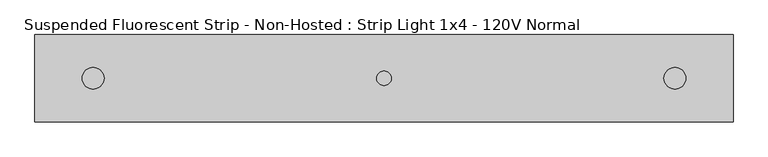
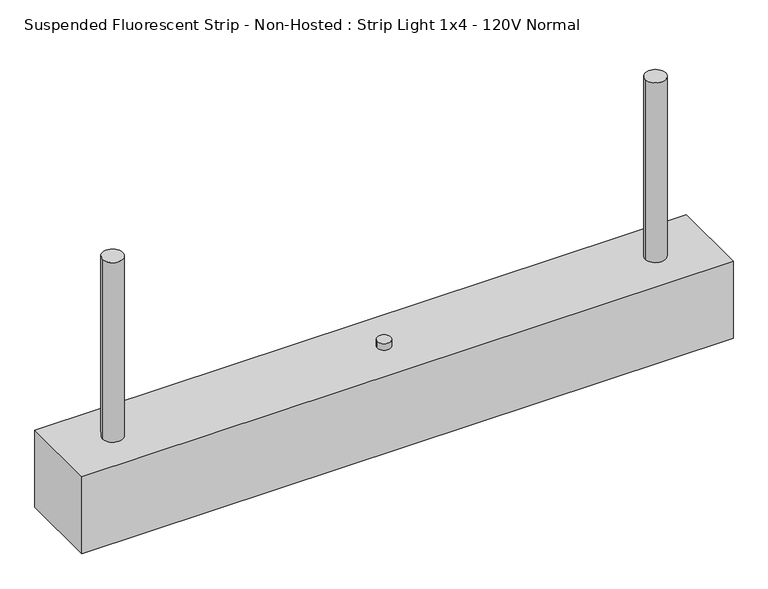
"""IFC4 building model written with IfcOpenShell, lengths in millimetres: light fixture geometry, Suspended Fluorescent Strip - Non-Hosted : Strip Light 1x4 - 120V Normal."""

import ifcopenshell
import ifcopenshell.guid

model = None  # the IFC model being written
_history = None  # IfcOwnerHistory: only IFC2X3 demands one
_inside = {}  # id of a spatial element -> (the spatial element, [elements in it])
_under = {}  # id of a project, library or spatial element -> (it, [spatial elements below it])
_declared = {}  # id of a project -> (the project, [libraries it declares])
_typed = {}  # id of a type object -> (the type object, [elements of that type])
_made_of = {}  # id of a material, layer set ... -> (it, [elements and type objects made of it])


def new_model(schema):
    """Start an empty IFC model of exactly this schema.

    Asked for "IFC4X3", IfcOpenShell would pick the latest addendum, in which some entities
    have other attributes; the version numbers below select the first issue.
    IFC2X3 requires an IfcOwnerHistory on every rooted entity: one is made here for all.
    """
    global model, _history
    if schema == "IFC4X3":
        model = ifcopenshell.file(schema_version=(4, 3, 0, 0))
    else:
        model = ifcopenshell.file(schema=schema)
    _inside.clear()
    _under.clear()
    _declared.clear()
    _typed.clear()
    _made_of.clear()
    _history = None
    if model.schema == "IFC2X3":
        org = make("IfcOrganization", Name="unknown")
        user = make(
            "IfcPersonAndOrganization",
            ThePerson=make("IfcPerson", FamilyName="unknown"),
            TheOrganization=org,
        )
        app = make(
            "IfcApplication",
            ApplicationDeveloper=org,
            Version="unknown",
            ApplicationFullName="unknown",
            ApplicationIdentifier="unknown",
        )
        _history = make(
            "IfcOwnerHistory",
            OwningUser=user,
            OwningApplication=app,
            ChangeAction="ADDED",
            CreationDate=0,
        )
    return model


def make(cls, **values):
    """One entity of the class cls with the attributes given. An attribute that is None is left unset."""
    return model.create_entity(
        cls, **{name: value for name, value in values.items() if value is not None}
    )


def rooted(cls, **values):
    """An entity with a GlobalId (a new one), such as an element, a storey or a relation."""
    return make(cls, GlobalId=ifcopenshell.guid.new(), OwnerHistory=_history, **values)


def si_unit(unit_type, name, prefix=None):
    """IfcSIUnit, for example si_unit("LENGTHUNIT", "METRE", prefix="MILLI")."""
    return make("IfcSIUnit", UnitType=unit_type, Prefix=prefix, Name=name)


def assignment(units):
    """IfcUnitAssignment: the units of a project."""
    return None if units is None else make("IfcUnitAssignment", Units=units)


def point(xyz):
    """IfcCartesianPoint."""
    return None if xyz is None else make("IfcCartesianPoint", Coordinates=xyz)


def direction(xyz):
    """IfcDirection."""
    return None if xyz is None else make("IfcDirection", DirectionRatios=xyz)


def frame(location, z_axis=None, x_axis=None):
    """IfcAxis2Placement3D, a coordinate frame: its origin and axes. An axis left out is left unset."""
    return make(
        "IfcAxis2Placement3D",
        Location=point(location),
        Axis=direction(z_axis),
        RefDirection=direction(x_axis),
    )


def frame_2d(location, x_axis=None):
    """IfcAxis2Placement2D, a coordinate frame in the plane: its origin and x axis."""
    return make(
        "IfcAxis2Placement2D", Location=point(location), RefDirection=direction(x_axis)
    )


def origin():
    """The frame at (0, 0, 0) with its axes left unset."""
    return frame((0.0, 0.0, 0.0))


def origin_with_axes():
    """The frame at (0, 0, 0) with the z axis (0, 0, 1) and the x axis (1, 0, 0) written out."""
    return frame((0.0, 0.0, 0.0), z_axis=(0.0, 0.0, 1.0), x_axis=(1.0, 0.0, 0.0))


def origin_2d():
    """The frame at (0, 0) in the plane with its x axis left unset."""
    return frame_2d((0.0, 0.0))


def place(relative_to, where):
    """IfcLocalPlacement: puts the frame where relative to a parent placement (None: the world)."""
    return make(
        "IfcLocalPlacement", PlacementRelTo=relative_to, RelativePlacement=where
    )


def context(
    kind, dimensions, precision=None, world=None, true_north=None, identifier=None
):
    """IfcGeometricRepresentationContext, for example the 3D "Model" context."""
    return make(
        "IfcGeometricRepresentationContext",
        ContextIdentifier=identifier,
        ContextType=kind,
        CoordinateSpaceDimension=dimensions,
        Precision=precision,
        WorldCoordinateSystem=world,
        TrueNorth=true_north,
    )


def project(units=None, contexts=None):
    """IfcProject with its units and contexts."""
    return rooted(
        "IfcProject",
        Name="project",
        RepresentationContexts=contexts,
        UnitsInContext=assignment(units),
    )


def spatial(cls, under=None, at=None, **own):
    """A site, building, storey or space (cls), placed at a placement, below another one or the project."""
    s = rooted(cls, ObjectPlacement=at, **own)
    if under is not None:
        _under.setdefault(under.id(), (under, []))[1].append(s)
    return s


def polyline(points):
    """IfcPolyline through the points."""
    return make("IfcPolyline", Points=[point(p) for p in points])


def circle_curve(where, radius):
    """IfcCircle in the frame where."""
    return make("IfcCircle", Position=where, Radius=radius)


def trimmed(basis, trim1, trim2, sense, master):
    """IfcTrimmedCurve: the piece of a basis curve between two trims."""
    return make(
        "IfcTrimmedCurve",
        BasisCurve=basis,
        Trim1=trim1,
        Trim2=trim2,
        SenseAgreement=sense,
        MasterRepresentation=master,
    )


def segment(curve, same_sense, transition):
    """IfcCompositeCurveSegment."""
    return make(
        "IfcCompositeCurveSegment",
        Transition=transition,
        SameSense=same_sense,
        ParentCurve=curve,
    )


def composite_curve(segments, self_intersect=None):
    """IfcCompositeCurve: segments joined end to end."""
    return make("IfcCompositeCurve", Segments=segments, SelfIntersect=self_intersect)


def outline(outer, holes=None, kind="AREA"):
    """IfcArbitraryClosedProfileDef: a profile drawn as a closed curve; with holes, ...WithVoids."""
    if holes is None:
        return make("IfcArbitraryClosedProfileDef", ProfileType=kind, OuterCurve=outer)
    return make(
        "IfcArbitraryProfileDefWithVoids",
        ProfileType=kind,
        OuterCurve=outer,
        InnerCurves=holes,
    )


def extrude(swept, where, along, depth):
    """IfcExtrudedAreaSolid: the profile swept, set in the frame where, extruded along a direction by depth."""
    return make(
        "IfcExtrudedAreaSolid",
        SweptArea=swept,
        Position=where,
        ExtrudedDirection=direction(along),
        Depth=depth,
    )


def shape(context_of_items, identifier, shape_type, items):
    """IfcShapeRepresentation: the items that make up one representation, for example the "Body"."""
    return make(
        "IfcShapeRepresentation",
        ContextOfItems=context_of_items,
        RepresentationIdentifier=identifier,
        RepresentationType=shape_type,
        Items=items,
    )


def source(mapping_origin, context_of_items, identifier, shape_type, items):
    """IfcRepresentationMap: a shape defined once, which mapped items show again and again."""
    return make(
        "IfcRepresentationMap",
        MappingOrigin=mapping_origin,
        MappedRepresentation=shape(context_of_items, identifier, shape_type, items),
    )


def transform(
    local_origin,
    x_axis=None,
    y_axis=None,
    z_axis=None,
    scale=None,
    scale2=None,
    scale3=None,
    uniform=True,
):
    """IfcCartesianTransformationOperator3D, or its non-uniform kind. x_axis, y_axis, z_axis: its Axis1, 2, 3."""
    if uniform:
        return make(
            "IfcCartesianTransformationOperator3D",
            Axis1=direction(x_axis),
            Axis2=direction(y_axis),
            LocalOrigin=point(local_origin),
            Scale=scale,
            Axis3=direction(z_axis),
        )
    return make(
        "IfcCartesianTransformationOperator3DnonUniform",
        Axis1=direction(x_axis),
        Axis2=direction(y_axis),
        LocalOrigin=point(local_origin),
        Scale=scale,
        Axis3=direction(z_axis),
        Scale2=scale2,
        Scale3=scale3,
    )


def mapped(mapping_source, mapping_target):
    """IfcMappedItem: shows the shape of a source again, moved by a transform."""
    return make(
        "IfcMappedItem", MappingSource=mapping_source, MappingTarget=mapping_target
    )


def made_of(thing, what):
    """Note that an element or type object is made of a material, layer set ...; save() writes the relation."""
    if what is not None:
        _made_of.setdefault(what.id(), (what, []))[1].append(thing)
    return thing


def element(
    cls,
    number,
    at=None,
    inside=None,
    cuts=None,
    type_object=None,
    material=None,
    context=None,
    identifier="Body",
    shape_type=None,
    held_by="IfcProductDefinitionShape",
    body=None,
    shapes=None,
    **own,
):
    """One element of the class cls, such as IfcWall. Its Tag is "e" and its number.

    at: its placement. inside: the storey or other place that contains it. cuts: it is an
    opening in that element (IfcRelVoidsElement). A single representation is given by context,
    identifier, shape_type and body (its items); several are given by shapes. held_by: the class
    of the entity that holds the representations. save() writes the other relations.
    """
    e = rooted(cls, Tag="e%d" % number, ObjectPlacement=at, **own)
    if body is not None:
        shapes = [shape(context, identifier, shape_type, body)]
    if shapes is not None:
        e.Representation = make(held_by, Representations=shapes)
    if inside is not None:
        _inside.setdefault(inside.id(), (inside, []))[1].append(e)
    if cuts is not None:
        rooted(
            "IfcRelVoidsElement", RelatingBuildingElement=cuts, RelatedOpeningElement=e
        )
    if type_object is not None:
        _typed.setdefault(type_object.id(), (type_object, []))[1].append(e)
    return made_of(e, material)


def aggregate(whole, parts):
    """IfcRelAggregates: a whole, such as a stair, and the parts it consists of."""
    return rooted("IfcRelAggregates", RelatingObject=whole, RelatedObjects=parts)


def save(model, path):
    """Write the relations noted so far, then the file.

    IfcRelAggregates (storeys below a building ...), IfcRelContainedInSpatialStructure (elements
    in a storey), IfcRelDefinesByType, IfcRelAssociatesMaterial and IfcRelDeclares: one each for
    every whole, place, type object, material and project.
    """
    for whole, parts in _under.values():
        aggregate(whole, parts)
    for where, things in _inside.values():
        rooted(
            "IfcRelContainedInSpatialStructure",
            RelatedElements=things,
            RelatingStructure=where,
        )
    for kind, things in _typed.values():
        rooted("IfcRelDefinesByType", RelatedObjects=things, RelatingType=kind)
    for what, things in _made_of.values():
        rooted("IfcRelAssociatesMaterial", RelatedObjects=things, RelatingMaterial=what)
    for by, libraries in _declared.values():
        rooted("IfcRelDeclares", RelatingContext=by, RelatedDefinitions=libraries)
    model.write(path)


def suspended_fluorescent_strip_non_hosted_strip_light_1x4_120v_5197bc21(model_context):
    return source(origin(), model_context, "Body", "SweptSolid", [
        extrude(outline(composite_curve([segment(trimmed(circle_curve(frame_2d((508.0, 0.0)), 19.05), [point((527.05, 0.0))], [point((488.95, 0.0))], False, "CARTESIAN"), True, "CONTINUOUS"), segment(trimmed(circle_curve(frame_2d((508.0, 0.0)), 19.05), [point((488.95, 0.0))], [point((527.05, 0.0))], False, "CARTESIAN"), True, "CONTINUOUS")], self_intersect=False)), frame((0.0, 0.0, 152.4), z_axis=(0.0, 0.0, 1.0), x_axis=(1.0, 0.0, 0.0)), (0.0, 0.0, 1.0), 355.6),
        extrude(outline(composite_curve([segment(trimmed(circle_curve(frame_2d((-508.0, 0.0)), 19.05), [point((-488.95, 0.0))], [point((-527.05, 0.0))], False, "CARTESIAN"), True, "CONTINUOUS"), segment(trimmed(circle_curve(frame_2d((-508.0, 0.0)), 19.05), [point((-527.05, 0.0))], [point((-488.95, 0.0))], False, "CARTESIAN"), True, "CONTINUOUS")], self_intersect=False)), frame((0.0, 0.0, 152.4), z_axis=(0.0, 0.0, 1.0), x_axis=(1.0, 0.0, 0.0)), (0.0, 0.0, 1.0), 355.6),
        extrude(outline(composite_curve([segment(trimmed(circle_curve(origin_2d(), 12.7), [point((-12.7, 0.0))], [point((12.7, 0.0))], False, "CARTESIAN"), True, "CONTINUOUS"), segment(trimmed(circle_curve(origin_2d(), 12.7), [point((12.7, 0.0))], [point((-12.7, 0.0))], False, "CARTESIAN"), True, "CONTINUOUS")], self_intersect=False)), frame((0.0, 0.0, 152.4), z_axis=(0.0, 0.0, 1.0), x_axis=(1.0, 0.0, 0.0)), (0.0, 0.0, 1.0), 12.7),
        extrude(outline(polyline([(609.6, -76.2), (-609.6, -76.2), (-609.6, 76.2), (609.6, 76.2), (609.6, -76.2)])), origin_with_axes(), (0.0, 0.0, 1.0), 152.4),
    ])


if __name__ == "__main__":
    model = new_model("IFC4")
    model_context = context("Model", 3, world=origin())
    ifc_project = project(units=[si_unit("LENGTHUNIT", "METRE", prefix="MILLI")], contexts=[model_context])
    site = spatial("IfcSite", under=ifc_project)
    building = spatial("IfcBuilding", under=site)
    placement = place(None, origin())
    suspended_fluorescent_strip_non_hosted_strip_light_1x4_120v_shape = suspended_fluorescent_strip_non_hosted_strip_light_1x4_120v_5197bc21(model_context)
    element("IfcLightFixture", 1, ObjectType="Suspended Fluorescent Strip - Non-Hosted : Strip Light 1x4 - 120V Normal", at=placement, inside=building, context=model_context, shape_type="MappedRepresentation", body=[
        mapped(suspended_fluorescent_strip_non_hosted_strip_light_1x4_120v_shape, transform((0.0, 0.0, 0.0), x_axis=(1.0, 0.0, 0.0), y_axis=(0.0, 1.0, 0.0), z_axis=(0.0, 0.0, 1.0))),
    ])
    save(model, "model.ifc")
